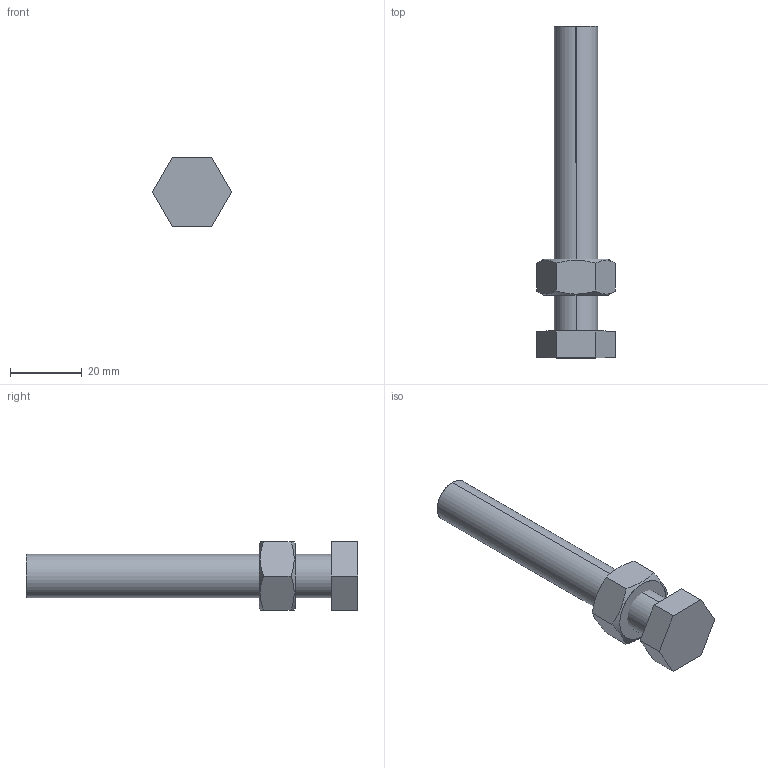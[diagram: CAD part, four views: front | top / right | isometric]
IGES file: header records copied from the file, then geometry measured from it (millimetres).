
Start section: SolidWorks IGES file using analytic representation for surfaces
Global section: file name: C:\Projetos\Ponteiras\PP\PP-M12.IGS; native system: SolidWorks 2011; preprocessor: SolidWorks 2011; author: Usuario; date: 110520.160923; units: millimetre
Bounding box: 21.94 x 92.5 x 19 mm (x, y, z)
Surface area: 5693.3 mm2 (no closed solid volume)
Topology: 0 solids, 0 shells, 29 faces, 476 edges, 476 vertices
Faces by surface type: bspline 17, revolution 12
